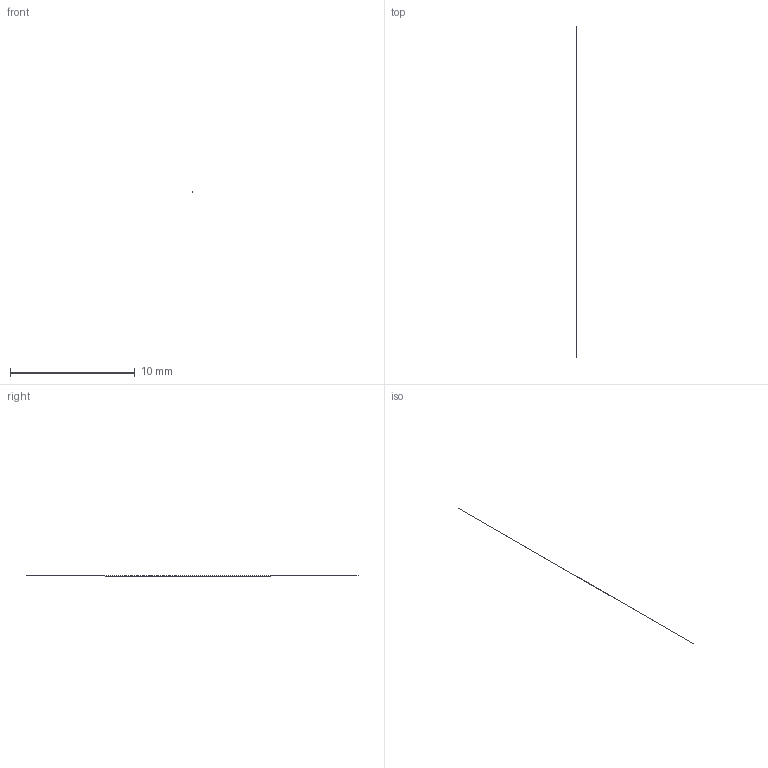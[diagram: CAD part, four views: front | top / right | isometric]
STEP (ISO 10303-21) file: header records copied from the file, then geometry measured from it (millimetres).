
FILE_DESCRIPTION(/* description */ ('STEP AP242 Edition 2','CAx-IF Rec.Pracs.---Representation and Presentation of Product Manufacturing Information (PMI)---4.0---2014-10-13','CAx-IF Rec.Pracs.---3D Tessellated Geometry---0.4---2014-09-14','2;1','CAx-IF Rec.Pracs.---User Defined Attributes---1.5---2016-08-15'),/* implementation_level */ '2;1');
FILE_NAME(/* name */ 'BambuLabA1mini_Leader_SO101 - Surface 1',/* time_stamp */ '2026-11-25T15:08:23Z',/* author */ (''),/* organization */ (''),/* preprocessor_version */ 'ST-DEVELOPER v20',/* originating_system */ 'ONSHAPE BY PTC INC, 1.224',/* authorisation */ ' ');
FILE_SCHEMA (('AP242_MANAGED_MODEL_BASED_3D_ENGINEERING_MIM_LF { 1 0 10303 442 3 1 4 }'));
Length unit declared in the file: metre
Products named in the file (1): Surface 1
Bounding box: 0 x 26.6 x 0 mm (x, y, z)
Surface area: 0 mm2 (no closed solid volume)
Topology: 0 solids, 1 shells, 1 faces, 0 edges, 0 vertices
Faces by surface type: other 1
Entity records: 38 total; most frequent: STYLED_ITEM 2, PRESENTATION_STYLE_ASSIGNMENT 2, SURFACE_STYLE_USAGE 2, SURFACE_SIDE_STYLE 2, SURFACE_STYLE_FILL_AREA 2, FILL_AREA_STYLE 2, FILL_AREA_STYLE_COLOUR 2, DIRECTION 2
